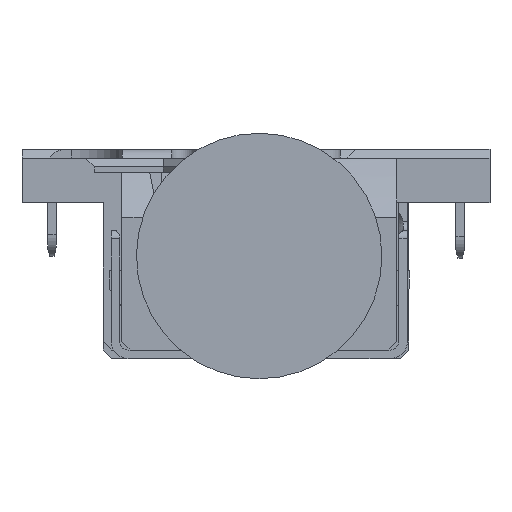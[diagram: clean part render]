
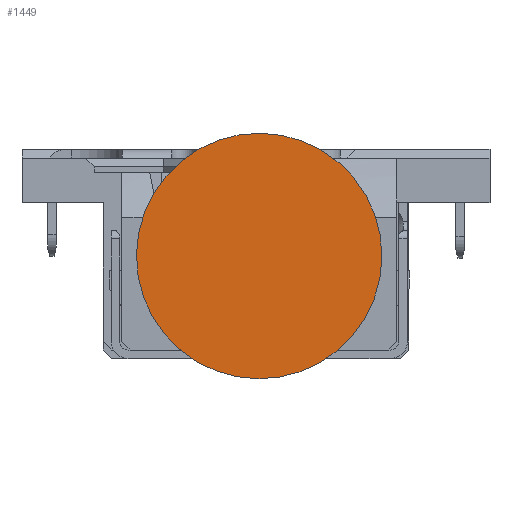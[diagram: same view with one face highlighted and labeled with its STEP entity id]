
A CAD part, front view. The second image highlights one B-rep face of the part: STEP entity #1449.
In plain terms, the highlighted planar face has unit normal (0, -1, 0) as drawn and (1, 0, 0) by its records, which use the part's own axes.
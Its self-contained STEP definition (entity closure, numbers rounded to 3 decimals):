
#806=CARTESIAN_POINT('',(16.396,2.85,-2.85));
#807=DIRECTION('',(1.,0.,0.));
#808=DIRECTION('',(0.,0.,-1.));
#809=AXIS2_PLACEMENT_3D('',#806,#807,#808);
#811=CARTESIAN_POINT('',(16.396,2.85,-2.85));
#812=DIRECTION('',(1.,0.,0.));
#813=DIRECTION('',(0.,0.,1.));
#814=AXIS2_PLACEMENT_3D('',#811,#812,#813);
#826=CARTESIAN_POINT('',(16.396,2.85,0.022));
#828=VERTEX_POINT('',#826);
#910=CARTESIAN_POINT('',(16.396,2.85,-5.722));
#911=VERTEX_POINT('',#910);
#1440=CARTESIAN_POINT('',(16.396,6.855,-4.198));
#1441=DIRECTION('',(1.,0.,0.));
#1442=DIRECTION('',(0.,0.,-1.));
#1443=AXIS2_PLACEMENT_3D('',#1440,#1441,#1442);
#1444=PLANE('',#1443);
#1445=ORIENTED_EDGE('',*,*,#1434,.F.);
#1446=ORIENTED_EDGE('',*,*,#1417,.F.);
#1447=EDGE_LOOP('',(#1445,#1446));
#1448=FACE_OUTER_BOUND('',#1447,.F.);
#810=CIRCLE('',#809,2.872);
#815=CIRCLE('',#814,2.872);
#1417=EDGE_CURVE('',#828,#911,#815,.T.);
#1434=EDGE_CURVE('',#911,#828,#810,.T.);
#1449=ADVANCED_FACE('',(#1448),#1444,.T.);
